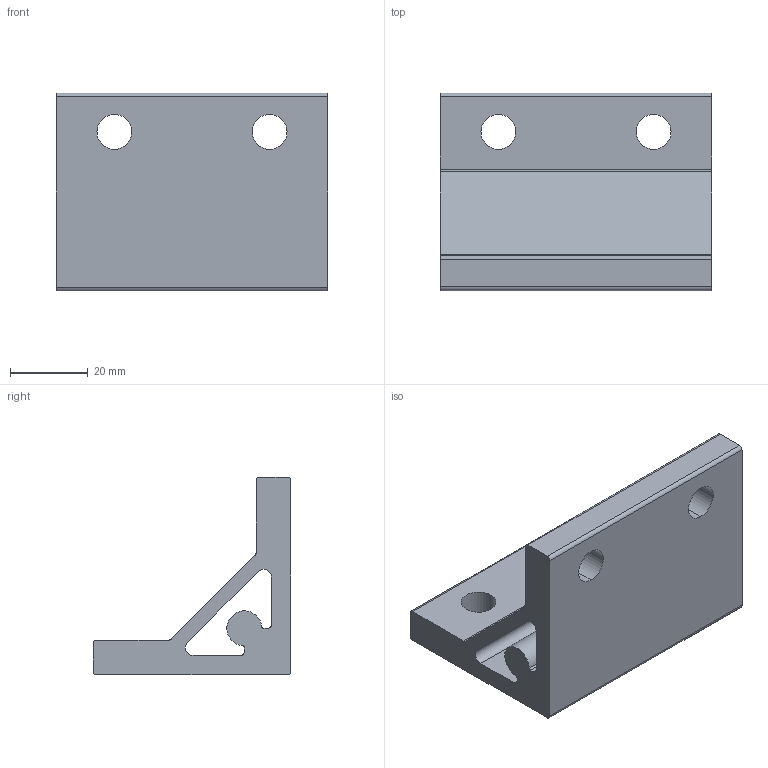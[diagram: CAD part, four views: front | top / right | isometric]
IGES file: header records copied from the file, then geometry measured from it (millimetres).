
Start section: SolidWorks IGES file using analytic representation for surfaces
Global section: file name: C:\Documents and Settings\Administrator\デスクトップ\指定保存後4回目\SolidWorks\SF\SF40・45\Bracket\ハードブラケットL4080\SFJ-N06.IGS,41HSolidWorks 2006 by; native system: SolidWorks Corporation; preprocessor: SolidWorks 2006 by SolidWorks Corporation; author: Administrator; date: 061218.092627; units: millimetre
Bounding box: 70 x 51 x 51 mm (x, y, z)
Volume: 58703.2 mm3; surface area: 21535.6 mm2
Topology: 1 solids, 1 shells, 36 faces, 102 edges, 68 vertices
Faces by surface type: revolution 22, plane 14
